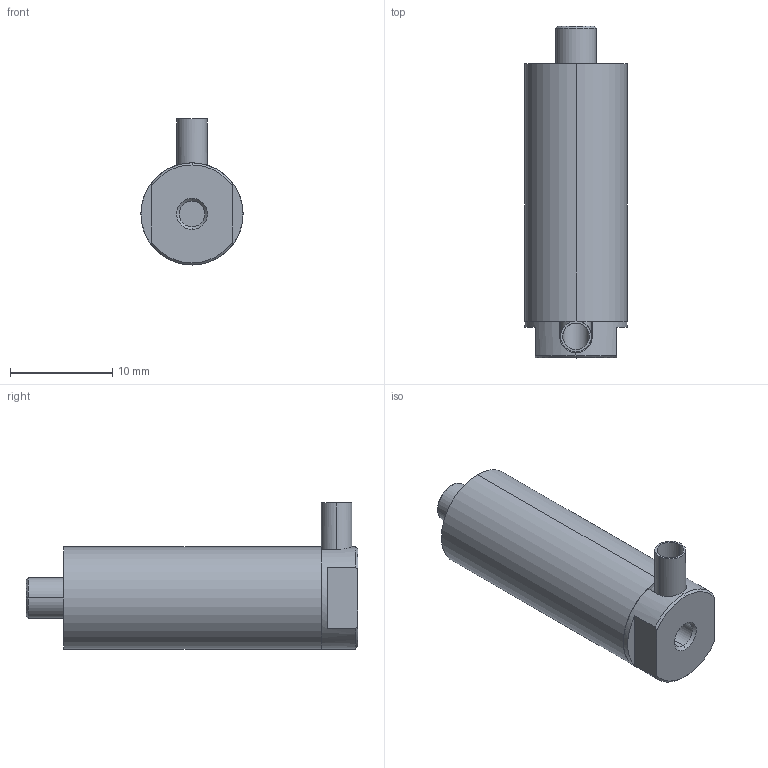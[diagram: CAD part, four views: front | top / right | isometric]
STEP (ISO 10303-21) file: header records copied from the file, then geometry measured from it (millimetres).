
FILE_DESCRIPTION (( 'STEP AP203' ), '1' );
FILE_NAME ('20VS10装配图（平头式）.STEP', '2024-10-25T02:40:32', ( 'daohangxitong.com' ), ( 'daohangxitong.com' ), 'SwSTEP 2.0', 'SolidWorks 2016', '' );
FILE_SCHEMA (( 'CONFIG_CONTROL_DESIGN' ));
Length unit declared in the file: millimetre
Products named in the file (1): 20VS10装配图（平头式）
Bounding box: 10 x 32.5 x 14.3 mm (x, y, z)
Volume: 2258.5 mm3; surface area: 1730.1 mm2
Topology: 5 solids, 5 shells, 65 faces, 140 edges, 84 vertices
Faces by surface type: cylinder 28, cone 19, plane 18
Entity records: 1844 total; most frequent: CARTESIAN_POINT 338, DIRECTION 323, ORIENTED_EDGE 272, EDGE_CURVE 136, AXIS2_PLACEMENT_3D 131, VERTEX_POINT 84, EDGE_LOOP 74, CIRCLE 65
